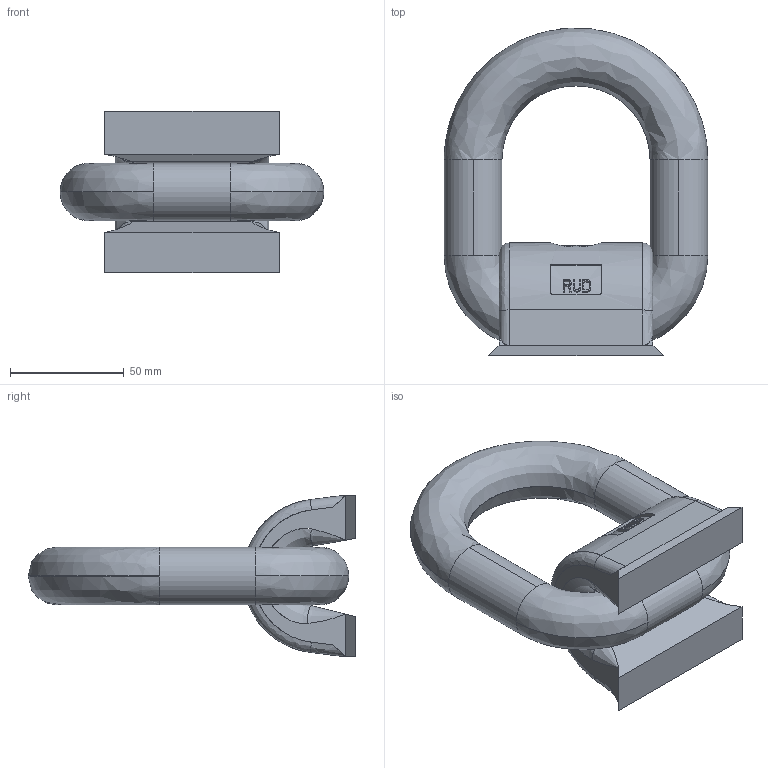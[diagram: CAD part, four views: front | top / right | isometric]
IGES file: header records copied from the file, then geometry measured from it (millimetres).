
Start section: SolidWorks IGES file using analytic representation for surfaces
Global section: file name: R:\Projetos\André.Siqueira\COMPONENTES PADRÃO\14-LBS\LBS - 8t\LBS-8t\LBS - 8t.IGS; native system: SolidWorks 2012; preprocessor: SolidWorks 2012; author: andre.siqueira; date: 130410.135608; units: millimetre
Bounding box: 115.8 x 143.8 x 71 mm (x, y, z)
Surface area: 48897.4 mm2 (no closed solid volume)
Topology: 0 solids, 0 shells, 140 faces, 1206 edges, 1202 vertices
Faces by surface type: bspline 114, revolution 26
